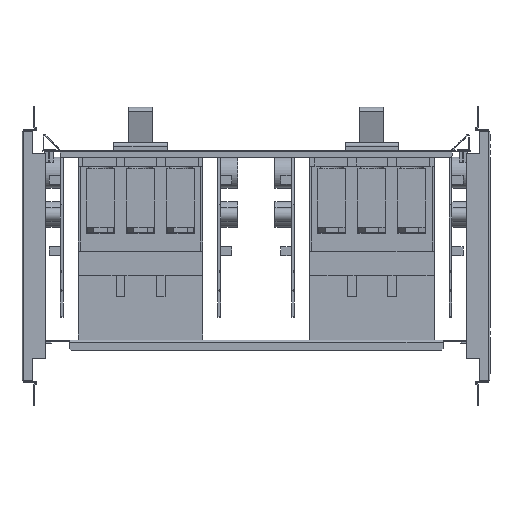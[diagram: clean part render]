
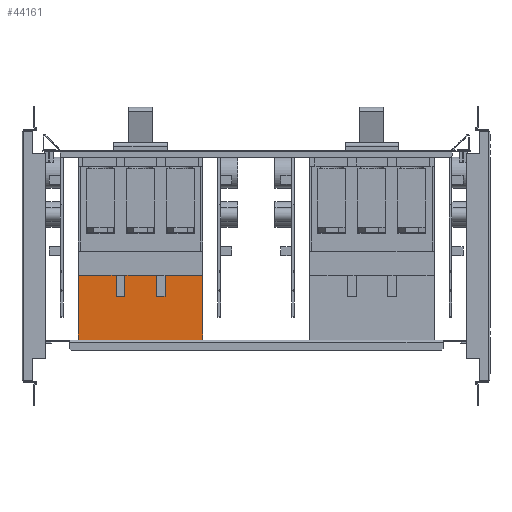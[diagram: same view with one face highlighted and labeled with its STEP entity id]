
A CAD part, front view. The second image highlights one B-rep face of the part: STEP entity #44161.
In plain terms, the highlighted planar face has unit normal (0, -1, 0).
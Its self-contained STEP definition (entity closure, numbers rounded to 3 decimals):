
#40726=CARTESIAN_POINT(' ',(-204.461,-135.467,-65.647));
#40727=VERTEX_POINT(' ',#40726);
#40741=CARTESIAN_POINT(' ',(-204.461,-135.467,-65.647));
#40746=DIRECTION(' ',(0.,0.,1.));
#40751=VECTOR(' ',#40746,1.);
#40756=LINE('',#40741,#40751);
#40761=CARTESIAN_POINT(' ',(-204.461,-135.467,7.353));
#40762=VERTEX_POINT(' ',#40761);
#40766=EDGE_CURVE(' ',#40727,#40762,#40756,.T.);
#41981=CARTESIAN_POINT(' ',(-64.461,-135.467,7.353));
#41982=VERTEX_POINT(' ',#41981);
#41996=CARTESIAN_POINT(' ',(-64.461,-135.467,-65.647));
#42001=DIRECTION(' ',(0.,0.,1.));
#42006=VECTOR(' ',#42001,1.);
#42011=LINE('',#41996,#42006);
#42016=CARTESIAN_POINT(' ',(-64.461,-135.467,-65.647));
#42017=VERTEX_POINT(' ',#42016);
#42021=EDGE_CURVE(' ',#42017,#41982,#42011,.T.);
#43636=CARTESIAN_POINT(' ',(-204.461,-135.467,-65.647));
#43641=DIRECTION(' ',(1.,0.,0.));
#43646=VECTOR(' ',#43641,1.);
#43651=LINE('',#43636,#43646);
#43656=EDGE_CURVE(' ',#40727,#42017,#43651,.T.);
#43801=DIRECTION(' ',(0.,-1.,0.));
#43806=CARTESIAN_POINT(' ',(-64.461,-135.467,7.353));
#43811=DIRECTION(' ',(-1.,0.,0.));
#43816=AXIS2_PLACEMENT_3D(' ',#43806,#43801,#43811);
#43821=PLANE('NONE',#43816);
#43826=CARTESIAN_POINT(' ',(-106.961,-135.467,-16.647));
#43831=DIRECTION(' ',(0.,0.,1.));
#43836=VECTOR(' ',#43831,1.);
#43841=LINE('',#43826,#43836);
#43846=CARTESIAN_POINT(' ',(-106.961,-135.467,-16.647));
#43847=VERTEX_POINT(' ',#43846);
#43851=CARTESIAN_POINT(' ',(-106.961,-135.467,7.353));
#43852=VERTEX_POINT(' ',#43851);
#43856=EDGE_CURVE(' ',#43847,#43852,#43841,.T.);
#43861=ORIENTED_EDGE(' ',*,*,#43856,.F.);
#43866=CARTESIAN_POINT(' ',(-116.961,-135.467,-16.647));
#43871=DIRECTION(' ',(1.,0.,0.));
#43876=VECTOR(' ',#43871,1.);
#43881=LINE('',#43866,#43876);
#43886=CARTESIAN_POINT(' ',(-116.961,-135.467,-16.647));
#43887=VERTEX_POINT(' ',#43886);
#43891=EDGE_CURVE(' ',#43887,#43847,#43881,.T.);
#43896=ORIENTED_EDGE(' ',*,*,#43891,.F.);
#43901=CARTESIAN_POINT(' ',(-116.961,-135.467,7.353));
#43906=DIRECTION(' ',(0.,0.,-1.));
#43911=VECTOR(' ',#43906,1.);
#43916=LINE('',#43901,#43911);
#43921=CARTESIAN_POINT(' ',(-116.961,-135.467,7.353));
#43922=VERTEX_POINT(' ',#43921);
#43926=EDGE_CURVE(' ',#43922,#43887,#43916,.T.);
#43931=ORIENTED_EDGE(' ',*,*,#43926,.F.);
#43936=CARTESIAN_POINT(' ',(-116.961,-135.467,7.353));
#43941=DIRECTION(' ',(-1.,0.,0.));
#43946=VECTOR(' ',#43941,1.);
#43951=LINE('',#43936,#43946);
#43956=CARTESIAN_POINT(' ',(-151.961,-135.467,7.353));
#43957=VERTEX_POINT(' ',#43956);
#43961=EDGE_CURVE(' ',#43922,#43957,#43951,.T.);
#43966=ORIENTED_EDGE(' ',*,*,#43961,.T.);
#43971=CARTESIAN_POINT(' ',(-151.961,-135.467,-16.647));
#43976=DIRECTION(' ',(0.,0.,1.));
#43981=VECTOR(' ',#43976,1.);
#43986=LINE('',#43971,#43981);
#43991=CARTESIAN_POINT(' ',(-151.961,-135.467,-16.647));
#43992=VERTEX_POINT(' ',#43991);
#43996=EDGE_CURVE(' ',#43992,#43957,#43986,.T.);
#44001=ORIENTED_EDGE(' ',*,*,#43996,.F.);
#44006=CARTESIAN_POINT(' ',(-161.961,-135.467,-16.647));
#44011=DIRECTION(' ',(1.,0.,0.));
#44016=VECTOR(' ',#44011,1.);
#44021=LINE('',#44006,#44016);
#44026=CARTESIAN_POINT(' ',(-161.961,-135.467,-16.647));
#44027=VERTEX_POINT(' ',#44026);
#44031=EDGE_CURVE(' ',#44027,#43992,#44021,.T.);
#44036=ORIENTED_EDGE(' ',*,*,#44031,.F.);
#44041=CARTESIAN_POINT(' ',(-161.961,-135.467,7.353));
#44046=DIRECTION(' ',(0.,0.,-1.));
#44051=VECTOR(' ',#44046,1.);
#44056=LINE('',#44041,#44051);
#44061=CARTESIAN_POINT(' ',(-161.961,-135.467,7.353));
#44062=VERTEX_POINT(' ',#44061);
#44066=EDGE_CURVE(' ',#44062,#44027,#44056,.T.);
#44071=ORIENTED_EDGE(' ',*,*,#44066,.F.);
#44076=CARTESIAN_POINT(' ',(-204.461,-135.467,7.353));
#44081=DIRECTION(' ',(1.,0.,0.));
#44086=VECTOR(' ',#44081,1.);
#44091=LINE('',#44076,#44086);
#44096=EDGE_CURVE(' ',#40762,#44062,#44091,.T.);
#44101=ORIENTED_EDGE(' ',*,*,#44096,.F.);
#44106=ORIENTED_EDGE(' ',*,*,#40766,.F.);
#44111=ORIENTED_EDGE(' ',*,*,#43656,.T.);
#44116=ORIENTED_EDGE(' ',*,*,#42021,.T.);
#44121=CARTESIAN_POINT(' ',(-106.961,-135.467,7.353));
#44126=DIRECTION(' ',(1.,0.,0.));
#44131=VECTOR(' ',#44126,1.);
#44136=LINE('',#44121,#44131);
#44141=EDGE_CURVE(' ',#43852,#41982,#44136,.T.);
#44146=ORIENTED_EDGE(' ',*,*,#44141,.F.);
#44151=EDGE_LOOP(' ',(#43861,#43896,#43931,#43966,#44001,#44036,#44071,#44101,#44106,#44111,#44116,#44146));
#44156=FACE_OUTER_BOUND(' ',#44151,.T.);
#44161=ADVANCED_FACE('NONE',(#44156),#43821,.T.);
